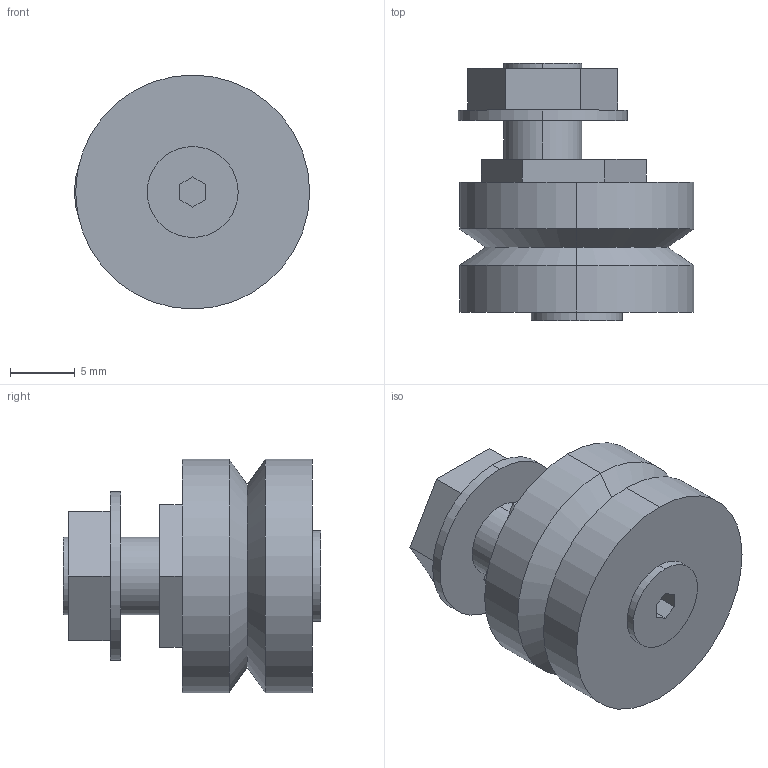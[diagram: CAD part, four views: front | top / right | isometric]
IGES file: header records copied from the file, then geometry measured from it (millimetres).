
Start section: 3D InterOp IGES (v. 2019 1.0.2), Spatial Corp. Copyright (c) 1999-2017.
Global section: file name: SJ 18 DENS.igs; native system: Spatial Corp.; preprocessor: 3D InterOp GENERIC/IGES 3.0; author: Noname; organization: Noname; date: 20220628.165356; units: millimetre
Bounding box: 18.1 x 19.8 x 18 mm (x, y, z)
Surface area: 1698.8 mm2 (no closed solid volume)
Topology: 0 solids, 0 shells, 50 faces, 228 edges, 228 vertices
Faces by surface type: extrusion 34, revolution 16
